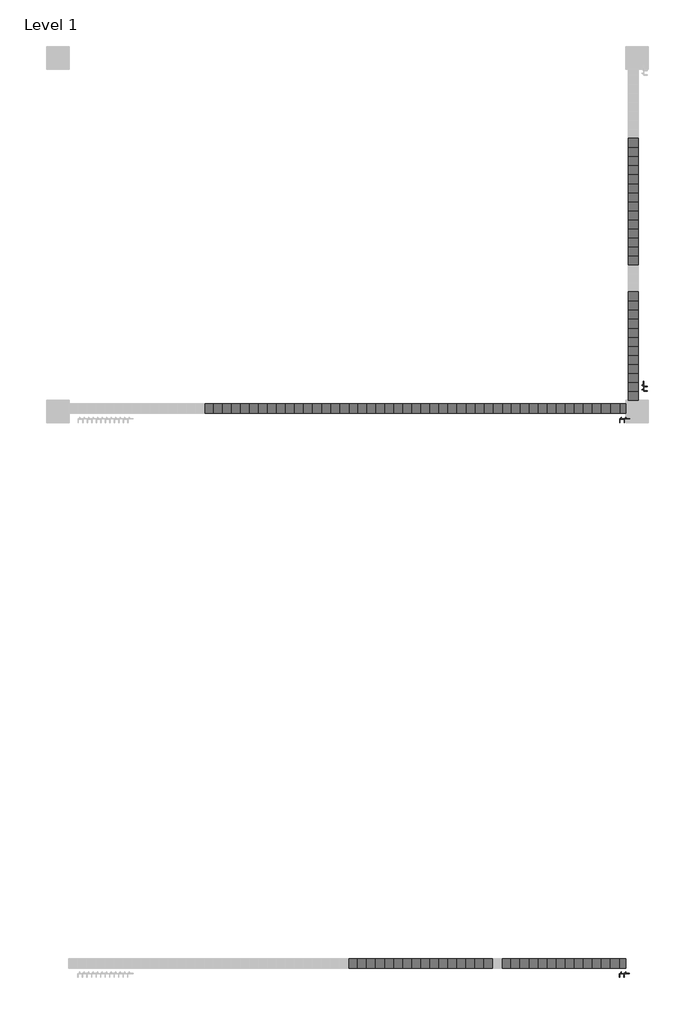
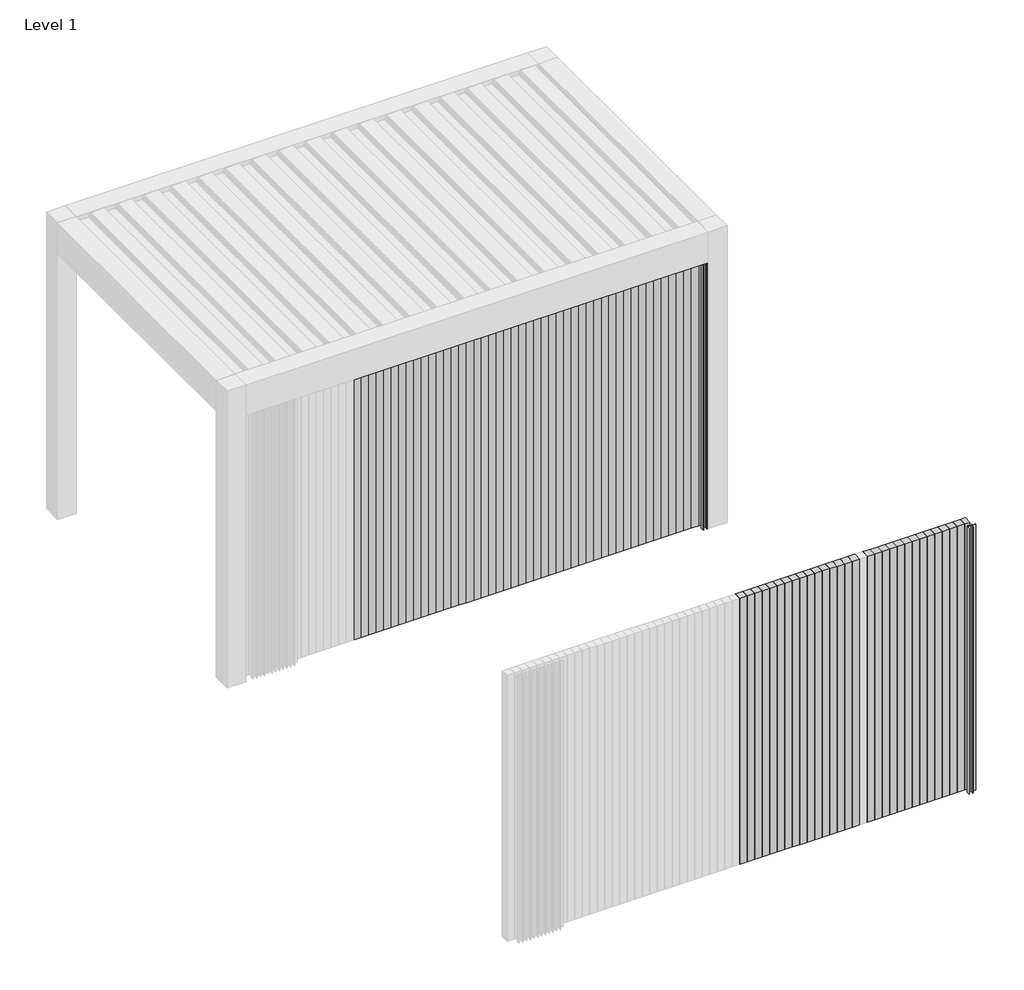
# One storey, part 2 of 69: 103 plates, 3 members.
"""IFC4 building model written with IfcOpenShell, lengths in millimetres."""

from ifc_helpers import new_model, si_unit, origin, origin_with_axes, place, context, project, spatial, polyline, outline, extrude, transform, mapped, element, save
from components import rectangular_mullion_a288ed38

model = new_model("IFC4")

# Units and contexts
model_context = context("Model", 3, world=origin())
ifc_project = project(units=[si_unit("LENGTHUNIT", "METRE", prefix="MILLI")], contexts=[model_context])

# Site, building, storey
site = spatial("IfcSite", under=ifc_project)
building = spatial("IfcBuilding", under=site)
storey = spatial("IfcBuildingStorey", under=building, Name="Level 1", Elevation=0.0)

# Members
placement = place(None, origin())
rectangular_mullion_shape = rectangular_mullion_a288ed38(model_context)
element("IfcMember", 1, ObjectType="Rectangular Mullion : Renson_Linarte_LA-E25-01", at=placement, inside=storey, context=model_context, shape_type="MappedRepresentation", body=[
    mapped(rectangular_mullion_shape, transform((210784.2591292, 4519.040906, 0.0), x_axis=(1.0, 0.0, 0.0), y_axis=(0.0, -1.0, 0.0), z_axis=(0.0, 0.0, -1.0))),
])
element("IfcMember", 2, ObjectType="Rectangular Mullion : Renson_Linarte_LA-E25-01", at=placement, inside=storey, context=model_context, shape_type="MappedRepresentation", body=[
    mapped(rectangular_mullion_shape, transform((210785.5749429, 8204.7218191, 0.0), x_axis=(1.0, 0.0, 0.0), y_axis=(0.0, -1.0, 0.0), z_axis=(0.0, 0.0, -1.0))),
])
element("IfcMember", 3, ObjectType="Rectangular Mullion : Renson_Linarte_LA-E25-01", at=placement, inside=storey, context=model_context, shape_type="MappedRepresentation", body=[
    mapped(rectangular_mullion_shape, transform((210877.0900207, 8319.7218195, 0.0), x_axis=(0.0, 1.0, 0.0), y_axis=(1.0, 0.0, 0.0), z_axis=(0.0, 0.0, -1.0))),
])

# Plates
element("IfcPlate", 4, ObjectType="Base - 64mm", at=placement, inside=storey, context=model_context, shape_type="SweptSolid", body=[
    extrude(outline(polyline([(210784.2591292, 4487.040906), (210724.2591292, 4487.040906), (210724.2591292, 4551.040906), (210784.2591292, 4551.040906), (210784.2591292, 4487.040906)])), origin_with_axes(), (0.0, 0.0, 1.0), 2250.0),
])
element("IfcPlate", 5, ObjectType="Base - 64mm", at=placement, inside=storey, context=model_context, shape_type="SweptSolid", body=[
    extrude(outline(polyline([(210724.2591292, 4487.040906), (210664.2591292, 4487.040906), (210664.2591292, 4551.040906), (210724.2591292, 4551.040906), (210724.2591292, 4487.040906)])), origin_with_axes(), (0.0, 0.0, 1.0), 2250.0),
])
element("IfcPlate", 6, ObjectType="Base - 64mm", at=placement, inside=storey, context=model_context, shape_type="SweptSolid", body=[
    extrude(outline(polyline([(210664.2591292, 4487.040906), (210604.2591292, 4487.040906), (210604.2591292, 4551.040906), (210664.2591292, 4551.040906), (210664.2591292, 4487.040906)])), origin_with_axes(), (0.0, 0.0, 1.0), 2250.0),
])
element("IfcPlate", 7, ObjectType="Base - 64mm", at=placement, inside=storey, context=model_context, shape_type="SweptSolid", body=[
    extrude(outline(polyline([(210604.2591292, 4487.040906), (210544.2591292, 4487.040906), (210544.2591292, 4551.040906), (210604.2591292, 4551.040906), (210604.2591292, 4487.040906)])), origin_with_axes(), (0.0, 0.0, 1.0), 2250.0),
])
element("IfcPlate", 8, ObjectType="Base - 64mm", at=placement, inside=storey, context=model_context, shape_type="SweptSolid", body=[
    extrude(outline(polyline([(210544.2591292, 4487.040906), (210484.2591292, 4487.040906), (210484.2591292, 4551.040906), (210544.2591292, 4551.040906), (210544.2591292, 4487.040906)])), origin_with_axes(), (0.0, 0.0, 1.0), 2250.0),
])
element("IfcPlate", 9, ObjectType="Base - 64mm", at=placement, inside=storey, context=model_context, shape_type="SweptSolid", body=[
    extrude(outline(polyline([(210484.2591292, 4487.040906), (210424.2591292, 4487.040906), (210424.2591292, 4551.040906), (210484.2591292, 4551.040906), (210484.2591292, 4487.040906)])), origin_with_axes(), (0.0, 0.0, 1.0), 2250.0),
])
element("IfcPlate", 10, ObjectType="Base - 64mm", at=placement, inside=storey, context=model_context, shape_type="SweptSolid", body=[
    extrude(outline(polyline([(210424.2591292, 4487.040906), (210364.2591292, 4487.040906), (210364.2591292, 4551.040906), (210424.2591292, 4551.040906), (210424.2591292, 4487.040906)])), origin_with_axes(), (0.0, 0.0, 1.0), 2250.0),
])
element("IfcPlate", 11, ObjectType="Base - 64mm", at=placement, inside=storey, context=model_context, shape_type="SweptSolid", body=[
    extrude(outline(polyline([(210364.2591292, 4487.040906), (210304.2591292, 4487.040906), (210304.2591292, 4551.040906), (210364.2591292, 4551.040906), (210364.2591292, 4487.040906)])), origin_with_axes(), (0.0, 0.0, 1.0), 2250.0),
])
element("IfcPlate", 12, ObjectType="Base - 64mm", at=placement, inside=storey, context=model_context, shape_type="SweptSolid", body=[
    extrude(outline(polyline([(210304.2591292, 4487.040906), (210244.2591292, 4487.040906), (210244.2591292, 4551.040906), (210304.2591292, 4551.040906), (210304.2591292, 4487.040906)])), origin_with_axes(), (0.0, 0.0, 1.0), 2250.0),
])
element("IfcPlate", 13, ObjectType="Base - 64mm", at=placement, inside=storey, context=model_context, shape_type="SweptSolid", body=[
    extrude(outline(polyline([(210244.2591292, 4487.040906), (210184.2591292, 4487.040906), (210184.2591292, 4551.040906), (210244.2591292, 4551.040906), (210244.2591292, 4487.040906)])), origin_with_axes(), (0.0, 0.0, 1.0), 2250.0),
])
element("IfcPlate", 14, ObjectType="Base - 64mm", at=placement, inside=storey, context=model_context, shape_type="SweptSolid", body=[
    extrude(outline(polyline([(210184.2591292, 4487.040906), (210124.2591292, 4487.040906), (210124.2591292, 4551.040906), (210184.2591292, 4551.040906), (210184.2591292, 4487.040906)])), origin_with_axes(), (0.0, 0.0, 1.0), 2250.0),
])
element("IfcPlate", 15, ObjectType="Base - 64mm", at=placement, inside=storey, context=model_context, shape_type="SweptSolid", body=[
    extrude(outline(polyline([(210124.2591292, 4487.040906), (210064.2591292, 4487.040906), (210064.2591292, 4551.040906), (210124.2591292, 4551.040906), (210124.2591292, 4487.040906)])), origin_with_axes(), (0.0, 0.0, 1.0), 2250.0),
])
element("IfcPlate", 16, ObjectType="Base - 64mm", at=placement, inside=storey, context=model_context, shape_type="SweptSolid", body=[
    extrude(outline(polyline([(210064.2591292, 4487.040906), (210004.2591292, 4487.040906), (210004.2591292, 4551.040906), (210064.2591292, 4551.040906), (210064.2591292, 4487.040906)])), origin_with_axes(), (0.0, 0.0, 1.0), 2250.0),
])
element("IfcPlate", 17, ObjectType="Base - 64mm", at=placement, inside=storey, context=model_context, shape_type="SweptSolid", body=[
    extrude(outline(polyline([(209944.2591292, 4487.040906), (209884.2591292, 4487.040906), (209884.2591292, 4551.040906), (209944.2591292, 4551.040906), (209944.2591292, 4487.040906)])), origin_with_axes(), (0.0, 0.0, 1.0), 2250.0),
])
element("IfcPlate", 18, ObjectType="Base - 64mm", at=placement, inside=storey, context=model_context, shape_type="SweptSolid", body=[
    extrude(outline(polyline([(209884.2591292, 4487.040906), (209824.2591292, 4487.040906), (209824.2591292, 4551.040906), (209884.2591292, 4551.040906), (209884.2591292, 4487.040906)])), origin_with_axes(), (0.0, 0.0, 1.0), 2250.0),
])
element("IfcPlate", 19, ObjectType="Base - 64mm", at=placement, inside=storey, context=model_context, shape_type="SweptSolid", body=[
    extrude(outline(polyline([(209824.2591292, 4487.040906), (209764.2591292, 4487.040906), (209764.2591292, 4551.040906), (209824.2591292, 4551.040906), (209824.2591292, 4487.040906)])), origin_with_axes(), (0.0, 0.0, 1.0), 2250.0),
])
element("IfcPlate", 20, ObjectType="Base - 64mm", at=placement, inside=storey, context=model_context, shape_type="SweptSolid", body=[
    extrude(outline(polyline([(209764.2591292, 4487.040906), (209704.2591292, 4487.040906), (209704.2591292, 4551.040906), (209764.2591292, 4551.040906), (209764.2591292, 4487.040906)])), origin_with_axes(), (0.0, 0.0, 1.0), 2250.0),
])
element("IfcPlate", 21, ObjectType="Base - 64mm", at=placement, inside=storey, context=model_context, shape_type="SweptSolid", body=[
    extrude(outline(polyline([(209704.2591292, 4487.040906), (209644.2591292, 4487.040906), (209644.2591292, 4551.040906), (209704.2591292, 4551.040906), (209704.2591292, 4487.040906)])), origin_with_axes(), (0.0, 0.0, 1.0), 2250.0),
])
element("IfcPlate", 22, ObjectType="Base - 64mm", at=placement, inside=storey, context=model_context, shape_type="SweptSolid", body=[
    extrude(outline(polyline([(209644.2591292, 4487.040906), (209584.2591292, 4487.040906), (209584.2591292, 4551.040906), (209644.2591292, 4551.040906), (209644.2591292, 4487.040906)])), origin_with_axes(), (0.0, 0.0, 1.0), 2250.0),
])
element("IfcPlate", 23, ObjectType="Base - 64mm", at=placement, inside=storey, context=model_context, shape_type="SweptSolid", body=[
    extrude(outline(polyline([(209584.2591292, 4487.040906), (209524.2591292, 4487.040906), (209524.2591292, 4551.040906), (209584.2591292, 4551.040906), (209584.2591292, 4487.040906)])), origin_with_axes(), (0.0, 0.0, 1.0), 2250.0),
])
element("IfcPlate", 24, ObjectType="Base - 64mm", at=placement, inside=storey, context=model_context, shape_type="SweptSolid", body=[
    extrude(outline(polyline([(209524.2591292, 4487.040906), (209464.2591292, 4487.040906), (209464.2591292, 4551.040906), (209524.2591292, 4551.040906), (209524.2591292, 4487.040906)])), origin_with_axes(), (0.0, 0.0, 1.0), 2250.0),
])
element("IfcPlate", 25, ObjectType="Base - 64mm", at=placement, inside=storey, context=model_context, shape_type="SweptSolid", body=[
    extrude(outline(polyline([(209464.2591292, 4487.040906), (209404.2591292, 4487.040906), (209404.2591292, 4551.040906), (209464.2591292, 4551.040906), (209464.2591292, 4487.040906)])), origin_with_axes(), (0.0, 0.0, 1.0), 2250.0),
])
element("IfcPlate", 26, ObjectType="Base - 64mm", at=placement, inside=storey, context=model_context, shape_type="SweptSolid", body=[
    extrude(outline(polyline([(209404.2591292, 4487.040906), (209344.2591292, 4487.040906), (209344.2591292, 4551.040906), (209404.2591292, 4551.040906), (209404.2591292, 4487.040906)])), origin_with_axes(), (0.0, 0.0, 1.0), 2250.0),
])
element("IfcPlate", 27, ObjectType="Base - 64mm", at=placement, inside=storey, context=model_context, shape_type="SweptSolid", body=[
    extrude(outline(polyline([(209344.2591292, 4487.040906), (209284.2591292, 4487.040906), (209284.2591292, 4551.040906), (209344.2591292, 4551.040906), (209344.2591292, 4487.040906)])), origin_with_axes(), (0.0, 0.0, 1.0), 2250.0),
])
element("IfcPlate", 28, ObjectType="Base - 64mm", at=placement, inside=storey, context=model_context, shape_type="SweptSolid", body=[
    extrude(outline(polyline([(209284.2591292, 4487.040906), (209224.2591292, 4487.040906), (209224.2591292, 4551.040906), (209284.2591292, 4551.040906), (209284.2591292, 4487.040906)])), origin_with_axes(), (0.0, 0.0, 1.0), 2250.0),
])
element("IfcPlate", 29, ObjectType="Base - 64mm", at=placement, inside=storey, context=model_context, shape_type="SweptSolid", body=[
    extrude(outline(polyline([(209224.2591292, 4487.040906), (209164.2591292, 4487.040906), (209164.2591292, 4551.040906), (209224.2591292, 4551.040906), (209224.2591292, 4487.040906)])), origin_with_axes(), (0.0, 0.0, 1.0), 2250.0),
])
element("IfcPlate", 30, ObjectType="Base - 64mm", at=placement, inside=storey, context=model_context, shape_type="SweptSolid", body=[
    extrude(outline(polyline([(209164.2591292, 4487.040906), (209104.2591292, 4487.040906), (209104.2591292, 4551.040906), (209164.2591292, 4551.040906), (209164.2591292, 4487.040906)])), origin_with_axes(), (0.0, 0.0, 1.0), 2250.0),
])
element("IfcPlate", 31, ObjectType="Base - 64mm", at=placement, inside=storey, context=model_context, shape_type="SweptSolid", body=[
    extrude(outline(polyline([(209104.2591292, 4487.040906), (209044.2591292, 4487.040906), (209044.2591292, 4551.040906), (209104.2591292, 4551.040906), (209104.2591292, 4487.040906)])), origin_with_axes(), (0.0, 0.0, 1.0), 2250.0),
])
element("IfcPlate", 32, ObjectType="Base - 64mm", at=placement, inside=storey, context=model_context, shape_type="SweptSolid", body=[
    extrude(outline(polyline([(209044.2591292, 4487.040906), (208984.2591292, 4487.040906), (208984.2591292, 4551.040906), (209044.2591292, 4551.040906), (209044.2591292, 4487.040906)])), origin_with_axes(), (0.0, 0.0, 1.0), 2250.0),
])
element("IfcPlate", 33, ObjectType="Base - 64mm", at=placement, inside=storey, context=model_context, shape_type="SweptSolid", body=[
    extrude(outline(polyline([(210825.5749426, 4487.040906), (210784.2591292, 4487.040906), (210784.2591292, 4551.040906), (210825.5749426, 4551.040906), (210825.5749426, 4487.040906)])), origin_with_axes(), (0.0, 0.0, 1.0), 2250.0),
])
element("IfcPlate", 34, ObjectType="Base - 64mm", at=placement, inside=storey, context=model_context, shape_type="SweptSolid", body=[
    extrude(outline(polyline([(210785.5749429, 8172.7218191), (210725.5749429, 8172.7218191), (210725.5749429, 8236.7218191), (210785.5749429, 8236.7218191), (210785.5749429, 8172.7218191)])), origin_with_axes(), (0.0, 0.0, 1.0), 2250.0),
])
element("IfcPlate", 35, ObjectType="Base - 64mm", at=placement, inside=storey, context=model_context, shape_type="SweptSolid", body=[
    extrude(outline(polyline([(210725.5749429, 8172.7218191), (210665.5749429, 8172.7218191), (210665.5749429, 8236.7218191), (210725.5749429, 8236.7218191), (210725.5749429, 8172.7218191)])), origin_with_axes(), (0.0, 0.0, 1.0), 2250.0),
])
element("IfcPlate", 36, ObjectType="Base - 64mm", at=placement, inside=storey, context=model_context, shape_type="SweptSolid", body=[
    extrude(outline(polyline([(210665.5749429, 8172.7218191), (210605.5749429, 8172.7218191), (210605.5749429, 8236.7218191), (210665.5749429, 8236.7218191), (210665.5749429, 8172.7218191)])), origin_with_axes(), (0.0, 0.0, 1.0), 2250.0),
])
element("IfcPlate", 37, ObjectType="Base - 64mm", at=placement, inside=storey, context=model_context, shape_type="SweptSolid", body=[
    extrude(outline(polyline([(210605.5749429, 8172.7218191), (210545.5749429, 8172.7218191), (210545.5749429, 8236.7218191), (210605.5749429, 8236.7218191), (210605.5749429, 8172.7218191)])), origin_with_axes(), (0.0, 0.0, 1.0), 2250.0),
])
element("IfcPlate", 38, ObjectType="Base - 64mm", at=placement, inside=storey, context=model_context, shape_type="SweptSolid", body=[
    extrude(outline(polyline([(210545.5749429, 8172.7218191), (210485.5749429, 8172.7218191), (210485.5749429, 8236.7218191), (210545.5749429, 8236.7218191), (210545.5749429, 8172.7218191)])), origin_with_axes(), (0.0, 0.0, 1.0), 2250.0),
])
element("IfcPlate", 39, ObjectType="Base - 64mm", at=placement, inside=storey, context=model_context, shape_type="SweptSolid", body=[
    extrude(outline(polyline([(210485.5749429, 8172.7218191), (210425.5749429, 8172.7218191), (210425.5749429, 8236.7218191), (210485.5749429, 8236.7218191), (210485.5749429, 8172.7218191)])), origin_with_axes(), (0.0, 0.0, 1.0), 2250.0),
])
element("IfcPlate", 40, ObjectType="Base - 64mm", at=placement, inside=storey, context=model_context, shape_type="SweptSolid", body=[
    extrude(outline(polyline([(210425.5749429, 8172.7218191), (210365.5749429, 8172.7218191), (210365.5749429, 8236.7218191), (210425.5749429, 8236.7218191), (210425.5749429, 8172.7218191)])), origin_with_axes(), (0.0, 0.0, 1.0), 2250.0),
])
element("IfcPlate", 41, ObjectType="Base - 64mm", at=placement, inside=storey, context=model_context, shape_type="SweptSolid", body=[
    extrude(outline(polyline([(210365.5749429, 8172.7218191), (210305.5749429, 8172.7218191), (210305.5749429, 8236.7218191), (210365.5749429, 8236.7218191), (210365.5749429, 8172.7218191)])), origin_with_axes(), (0.0, 0.0, 1.0), 2250.0),
])
element("IfcPlate", 42, ObjectType="Base - 64mm", at=placement, inside=storey, context=model_context, shape_type="SweptSolid", body=[
    extrude(outline(polyline([(210305.5749429, 8172.7218191), (210245.5749429, 8172.7218191), (210245.5749429, 8236.7218191), (210305.5749429, 8236.7218191), (210305.5749429, 8172.7218191)])), origin_with_axes(), (0.0, 0.0, 1.0), 2250.0),
])
element("IfcPlate", 43, ObjectType="Base - 64mm", at=placement, inside=storey, context=model_context, shape_type="SweptSolid", body=[
    extrude(outline(polyline([(210245.5749429, 8172.7218191), (210185.5749429, 8172.7218191), (210185.5749429, 8236.7218191), (210245.5749429, 8236.7218191), (210245.5749429, 8172.7218191)])), origin_with_axes(), (0.0, 0.0, 1.0), 2250.0),
])
element("IfcPlate", 44, ObjectType="Base - 64mm", at=placement, inside=storey, context=model_context, shape_type="SweptSolid", body=[
    extrude(outline(polyline([(210185.5749429, 8172.7218191), (210125.5749429, 8172.7218191), (210125.5749429, 8236.7218191), (210185.5749429, 8236.7218191), (210185.5749429, 8172.7218191)])), origin_with_axes(), (0.0, 0.0, 1.0), 2250.0),
])
element("IfcPlate", 45, ObjectType="Base - 64mm", at=placement, inside=storey, context=model_context, shape_type="SweptSolid", body=[
    extrude(outline(polyline([(210125.5749429, 8172.7218191), (210065.5749429, 8172.7218191), (210065.5749429, 8236.7218191), (210125.5749429, 8236.7218191), (210125.5749429, 8172.7218191)])), origin_with_axes(), (0.0, 0.0, 1.0), 2250.0),
])
element("IfcPlate", 46, ObjectType="Base - 64mm", at=placement, inside=storey, context=model_context, shape_type="SweptSolid", body=[
    extrude(outline(polyline([(210065.5749429, 8172.7218191), (210005.5749429, 8172.7218191), (210005.5749429, 8236.7218191), (210065.5749429, 8236.7218191), (210065.5749429, 8172.7218191)])), origin_with_axes(), (0.0, 0.0, 1.0), 2250.0),
])
element("IfcPlate", 47, ObjectType="Base - 64mm", at=placement, inside=storey, context=model_context, shape_type="SweptSolid", body=[
    extrude(outline(polyline([(210005.5749429, 8172.7218191), (209945.5749429, 8172.7218191), (209945.5749429, 8236.7218191), (210005.5749429, 8236.7218191), (210005.5749429, 8172.7218191)])), origin_with_axes(), (0.0, 0.0, 1.0), 2250.0),
])
element("IfcPlate", 48, ObjectType="Base - 64mm", at=placement, inside=storey, context=model_context, shape_type="SweptSolid", body=[
    extrude(outline(polyline([(209945.5749429, 8172.7218191), (209885.5749429, 8172.7218191), (209885.5749429, 8236.7218191), (209945.5749429, 8236.7218191), (209945.5749429, 8172.7218191)])), origin_with_axes(), (0.0, 0.0, 1.0), 2250.0),
])
element("IfcPlate", 49, ObjectType="Base - 64mm", at=placement, inside=storey, context=model_context, shape_type="SweptSolid", body=[
    extrude(outline(polyline([(209885.5749429, 8172.7218191), (209825.5749429, 8172.7218191), (209825.5749429, 8236.7218191), (209885.5749429, 8236.7218191), (209885.5749429, 8172.7218191)])), origin_with_axes(), (0.0, 0.0, 1.0), 2250.0),
])
element("IfcPlate", 50, ObjectType="Base - 64mm", at=placement, inside=storey, context=model_context, shape_type="SweptSolid", body=[
    extrude(outline(polyline([(209825.5749429, 8172.7218191), (209765.5749429, 8172.7218191), (209765.5749429, 8236.7218191), (209825.5749429, 8236.7218191), (209825.5749429, 8172.7218191)])), origin_with_axes(), (0.0, 0.0, 1.0), 2250.0),
])
element("IfcPlate", 51, ObjectType="Base - 64mm", at=placement, inside=storey, context=model_context, shape_type="SweptSolid", body=[
    extrude(outline(polyline([(209765.5749429, 8172.7218191), (209705.5749429, 8172.7218191), (209705.5749429, 8236.7218191), (209765.5749429, 8236.7218191), (209765.5749429, 8172.7218191)])), origin_with_axes(), (0.0, 0.0, 1.0), 2250.0),
])
element("IfcPlate", 52, ObjectType="Base - 64mm", at=placement, inside=storey, context=model_context, shape_type="SweptSolid", body=[
    extrude(outline(polyline([(209705.5749429, 8172.7218191), (209645.5749429, 8172.7218191), (209645.5749429, 8236.7218191), (209705.5749429, 8236.7218191), (209705.5749429, 8172.7218191)])), origin_with_axes(), (0.0, 0.0, 1.0), 2250.0),
])
element("IfcPlate", 53, ObjectType="Base - 64mm", at=placement, inside=storey, context=model_context, shape_type="SweptSolid", body=[
    extrude(outline(polyline([(209645.5749429, 8172.7218191), (209585.5749429, 8172.7218191), (209585.5749429, 8236.7218191), (209645.5749429, 8236.7218191), (209645.5749429, 8172.7218191)])), origin_with_axes(), (0.0, 0.0, 1.0), 2250.0),
])
element("IfcPlate", 54, ObjectType="Base - 64mm", at=placement, inside=storey, context=model_context, shape_type="SweptSolid", body=[
    extrude(outline(polyline([(209585.5749429, 8172.7218191), (209525.5749429, 8172.7218191), (209525.5749429, 8236.7218191), (209585.5749429, 8236.7218191), (209585.5749429, 8172.7218191)])), origin_with_axes(), (0.0, 0.0, 1.0), 2250.0),
])
element("IfcPlate", 55, ObjectType="Base - 64mm", at=placement, inside=storey, context=model_context, shape_type="SweptSolid", body=[
    extrude(outline(polyline([(209525.5749429, 8172.7218191), (209465.5749429, 8172.7218191), (209465.5749429, 8236.7218191), (209525.5749429, 8236.7218191), (209525.5749429, 8172.7218191)])), origin_with_axes(), (0.0, 0.0, 1.0), 2250.0),
])
element("IfcPlate", 56, ObjectType="Base - 64mm", at=placement, inside=storey, context=model_context, shape_type="SweptSolid", body=[
    extrude(outline(polyline([(209465.5749429, 8172.7218191), (209405.5749429, 8172.7218191), (209405.5749429, 8236.7218191), (209465.5749429, 8236.7218191), (209465.5749429, 8172.7218191)])), origin_with_axes(), (0.0, 0.0, 1.0), 2250.0),
])
element("IfcPlate", 57, ObjectType="Base - 64mm", at=placement, inside=storey, context=model_context, shape_type="SweptSolid", body=[
    extrude(outline(polyline([(209405.5749429, 8172.7218191), (209345.5749429, 8172.7218191), (209345.5749429, 8236.7218191), (209405.5749429, 8236.7218191), (209405.5749429, 8172.7218191)])), origin_with_axes(), (0.0, 0.0, 1.0), 2250.0),
])
element("IfcPlate", 58, ObjectType="Base - 64mm", at=placement, inside=storey, context=model_context, shape_type="SweptSolid", body=[
    extrude(outline(polyline([(209345.5749429, 8172.7218191), (209285.5749429, 8172.7218191), (209285.5749429, 8236.7218191), (209345.5749429, 8236.7218191), (209345.5749429, 8172.7218191)])), origin_with_axes(), (0.0, 0.0, 1.0), 2250.0),
])
element("IfcPlate", 59, ObjectType="Base - 64mm", at=placement, inside=storey, context=model_context, shape_type="SweptSolid", body=[
    extrude(outline(polyline([(209285.5749429, 8172.7218191), (209225.5749429, 8172.7218191), (209225.5749429, 8236.7218191), (209285.5749429, 8236.7218191), (209285.5749429, 8172.7218191)])), origin_with_axes(), (0.0, 0.0, 1.0), 2250.0),
])
element("IfcPlate", 60, ObjectType="Base - 64mm", at=placement, inside=storey, context=model_context, shape_type="SweptSolid", body=[
    extrude(outline(polyline([(209225.5749429, 8172.7218191), (209165.5749429, 8172.7218191), (209165.5749429, 8236.7218191), (209225.5749429, 8236.7218191), (209225.5749429, 8172.7218191)])), origin_with_axes(), (0.0, 0.0, 1.0), 2250.0),
])
element("IfcPlate", 61, ObjectType="Base - 64mm", at=placement, inside=storey, context=model_context, shape_type="SweptSolid", body=[
    extrude(outline(polyline([(209165.5749429, 8172.7218191), (209105.5749429, 8172.7218191), (209105.5749429, 8236.7218191), (209165.5749429, 8236.7218191), (209165.5749429, 8172.7218191)])), origin_with_axes(), (0.0, 0.0, 1.0), 2250.0),
])
element("IfcPlate", 62, ObjectType="Base - 64mm", at=placement, inside=storey, context=model_context, shape_type="SweptSolid", body=[
    extrude(outline(polyline([(209105.5749429, 8172.7218191), (209045.5749429, 8172.7218191), (209045.5749429, 8236.7218191), (209105.5749429, 8236.7218191), (209105.5749429, 8172.7218191)])), origin_with_axes(), (0.0, 0.0, 1.0), 2250.0),
])
element("IfcPlate", 63, ObjectType="Base - 64mm", at=placement, inside=storey, context=model_context, shape_type="SweptSolid", body=[
    extrude(outline(polyline([(209045.5749429, 8172.7218191), (208985.5749429, 8172.7218191), (208985.5749429, 8236.7218191), (209045.5749429, 8236.7218191), (209045.5749429, 8172.7218191)])), origin_with_axes(), (0.0, 0.0, 1.0), 2250.0),
])
element("IfcPlate", 64, ObjectType="Base - 64mm", at=placement, inside=storey, context=model_context, shape_type="SweptSolid", body=[
    extrude(outline(polyline([(208985.5749429, 8172.7218191), (208925.5749429, 8172.7218191), (208925.5749429, 8236.7218191), (208985.5749429, 8236.7218191), (208985.5749429, 8172.7218191)])), origin_with_axes(), (0.0, 0.0, 1.0), 2250.0),
])
element("IfcPlate", 65, ObjectType="Base - 64mm", at=placement, inside=storey, context=model_context, shape_type="SweptSolid", body=[
    extrude(outline(polyline([(208925.5749429, 8172.7218191), (208865.5749429, 8172.7218191), (208865.5749429, 8236.7218191), (208925.5749429, 8236.7218191), (208925.5749429, 8172.7218191)])), origin_with_axes(), (0.0, 0.0, 1.0), 2250.0),
])
element("IfcPlate", 66, ObjectType="Base - 64mm", at=placement, inside=storey, context=model_context, shape_type="SweptSolid", body=[
    extrude(outline(polyline([(208865.5749429, 8172.7218191), (208805.5749429, 8172.7218191), (208805.5749429, 8236.7218191), (208865.5749429, 8236.7218191), (208865.5749429, 8172.7218191)])), origin_with_axes(), (0.0, 0.0, 1.0), 2250.0),
])
element("IfcPlate", 67, ObjectType="Base - 64mm", at=placement, inside=storey, context=model_context, shape_type="SweptSolid", body=[
    extrude(outline(polyline([(208805.5749429, 8172.7218191), (208745.5749429, 8172.7218191), (208745.5749429, 8236.7218191), (208805.5749429, 8236.7218191), (208805.5749429, 8172.7218191)])), origin_with_axes(), (0.0, 0.0, 1.0), 2250.0),
])
element("IfcPlate", 68, ObjectType="Base - 64mm", at=placement, inside=storey, context=model_context, shape_type="SweptSolid", body=[
    extrude(outline(polyline([(208745.5749429, 8172.7218191), (208685.5749429, 8172.7218191), (208685.5749429, 8236.7218191), (208745.5749429, 8236.7218191), (208745.5749429, 8172.7218191)])), origin_with_axes(), (0.0, 0.0, 1.0), 2250.0),
])
element("IfcPlate", 69, ObjectType="Base - 64mm", at=placement, inside=storey, context=model_context, shape_type="SweptSolid", body=[
    extrude(outline(polyline([(208685.5749429, 8172.7218191), (208625.5749429, 8172.7218191), (208625.5749429, 8236.7218191), (208685.5749429, 8236.7218191), (208685.5749429, 8172.7218191)])), origin_with_axes(), (0.0, 0.0, 1.0), 2250.0),
])
element("IfcPlate", 70, ObjectType="Base - 64mm", at=placement, inside=storey, context=model_context, shape_type="SweptSolid", body=[
    extrude(outline(polyline([(208625.5749429, 8172.7218191), (208565.5749429, 8172.7218191), (208565.5749429, 8236.7218191), (208625.5749429, 8236.7218191), (208625.5749429, 8172.7218191)])), origin_with_axes(), (0.0, 0.0, 1.0), 2250.0),
])
element("IfcPlate", 71, ObjectType="Base - 64mm", at=placement, inside=storey, context=model_context, shape_type="SweptSolid", body=[
    extrude(outline(polyline([(208565.5749429, 8172.7218191), (208505.5749429, 8172.7218191), (208505.5749429, 8236.7218191), (208565.5749429, 8236.7218191), (208565.5749429, 8172.7218191)])), origin_with_axes(), (0.0, 0.0, 1.0), 2250.0),
])
element("IfcPlate", 72, ObjectType="Base - 64mm", at=placement, inside=storey, context=model_context, shape_type="SweptSolid", body=[
    extrude(outline(polyline([(208505.5749429, 8172.7218191), (208445.5749429, 8172.7218191), (208445.5749429, 8236.7218191), (208505.5749429, 8236.7218191), (208505.5749429, 8172.7218191)])), origin_with_axes(), (0.0, 0.0, 1.0), 2250.0),
])
element("IfcPlate", 73, ObjectType="Base - 64mm", at=placement, inside=storey, context=model_context, shape_type="SweptSolid", body=[
    extrude(outline(polyline([(208445.5749429, 8172.7218191), (208385.5749429, 8172.7218191), (208385.5749429, 8236.7218191), (208445.5749429, 8236.7218191), (208445.5749429, 8172.7218191)])), origin_with_axes(), (0.0, 0.0, 1.0), 2250.0),
])
element("IfcPlate", 74, ObjectType="Base - 64mm", at=placement, inside=storey, context=model_context, shape_type="SweptSolid", body=[
    extrude(outline(polyline([(208385.5749429, 8172.7218191), (208325.5749429, 8172.7218191), (208325.5749429, 8236.7218191), (208385.5749429, 8236.7218191), (208385.5749429, 8172.7218191)])), origin_with_axes(), (0.0, 0.0, 1.0), 2250.0),
])
element("IfcPlate", 75, ObjectType="Base - 64mm", at=placement, inside=storey, context=model_context, shape_type="SweptSolid", body=[
    extrude(outline(polyline([(208325.5749429, 8172.7218191), (208265.5749429, 8172.7218191), (208265.5749429, 8236.7218191), (208325.5749429, 8236.7218191), (208325.5749429, 8172.7218191)])), origin_with_axes(), (0.0, 0.0, 1.0), 2250.0),
])
element("IfcPlate", 76, ObjectType="Base - 64mm", at=placement, inside=storey, context=model_context, shape_type="SweptSolid", body=[
    extrude(outline(polyline([(208265.5749429, 8172.7218191), (208205.5749429, 8172.7218191), (208205.5749429, 8236.7218191), (208265.5749429, 8236.7218191), (208265.5749429, 8172.7218191)])), origin_with_axes(), (0.0, 0.0, 1.0), 2250.0),
])
element("IfcPlate", 77, ObjectType="Base - 64mm", at=placement, inside=storey, context=model_context, shape_type="SweptSolid", body=[
    extrude(outline(polyline([(208205.5749429, 8172.7218191), (208145.5749429, 8172.7218191), (208145.5749429, 8236.7218191), (208205.5749429, 8236.7218191), (208205.5749429, 8172.7218191)])), origin_with_axes(), (0.0, 0.0, 1.0), 2250.0),
])
element("IfcPlate", 78, ObjectType="Base - 64mm", at=placement, inside=storey, context=model_context, shape_type="SweptSolid", body=[
    extrude(outline(polyline([(208145.5749429, 8172.7218191), (208085.5749429, 8172.7218191), (208085.5749429, 8236.7218191), (208145.5749429, 8236.7218191), (208145.5749429, 8172.7218191)])), origin_with_axes(), (0.0, 0.0, 1.0), 2250.0),
])
element("IfcPlate", 79, ObjectType="Base - 64mm", at=placement, inside=storey, context=model_context, shape_type="SweptSolid", body=[
    extrude(outline(polyline([(208085.5749429, 8172.7218191), (208025.5749429, 8172.7218191), (208025.5749429, 8236.7218191), (208085.5749429, 8236.7218191), (208085.5749429, 8172.7218191)])), origin_with_axes(), (0.0, 0.0, 1.0), 2250.0),
])
element("IfcPlate", 80, ObjectType="Base - 64mm", at=placement, inside=storey, context=model_context, shape_type="SweptSolid", body=[
    extrude(outline(polyline([(210825.5749426, 8172.7218191), (210785.5749429, 8172.7218191), (210785.5749429, 8236.7218191), (210825.5749426, 8236.7218191), (210825.5749426, 8172.7218191)])), origin_with_axes(), (0.0, 0.0, 1.0), 2250.0),
])
element("IfcPlate", 81, ObjectType="Base - 64mm", at=placement, inside=storey, context=model_context, shape_type="SweptSolid", body=[
    extrude(outline(polyline([(210909.0900207, 9999.7218195), (210909.0900207, 9939.7218195), (210845.0900207, 9939.7218195), (210845.0900207, 9999.7218195), (210909.0900207, 9999.7218195)])), origin_with_axes(), (0.0, 0.0, 1.0), 2250.0),
])
element("IfcPlate", 82, ObjectType="Base - 64mm", at=placement, inside=storey, context=model_context, shape_type="SweptSolid", body=[
    extrude(outline(polyline([(210909.0900207, 9939.7218195), (210909.0900207, 9879.7218195), (210845.0900207, 9879.7218195), (210845.0900207, 9939.7218195), (210909.0900207, 9939.7218195)])), origin_with_axes(), (0.0, 0.0, 1.0), 2250.0),
])
element("IfcPlate", 83, ObjectType="Base - 64mm", at=placement, inside=storey, context=model_context, shape_type="SweptSolid", body=[
    extrude(outline(polyline([(210909.0900207, 9879.7218195), (210909.0900207, 9819.7218195), (210845.0900207, 9819.7218195), (210845.0900207, 9879.7218195), (210909.0900207, 9879.7218195)])), origin_with_axes(), (0.0, 0.0, 1.0), 2250.0),
])
element("IfcPlate", 84, ObjectType="Base - 64mm", at=placement, inside=storey, context=model_context, shape_type="SweptSolid", body=[
    extrude(outline(polyline([(210909.0900207, 9819.7218195), (210909.0900207, 9759.7218195), (210845.0900207, 9759.7218195), (210845.0900207, 9819.7218195), (210909.0900207, 9819.7218195)])), origin_with_axes(), (0.0, 0.0, 1.0), 2250.0),
])
element("IfcPlate", 85, ObjectType="Base - 64mm", at=placement, inside=storey, context=model_context, shape_type="SweptSolid", body=[
    extrude(outline(polyline([(210909.0900207, 9759.7218195), (210909.0900207, 9699.7218195), (210845.0900207, 9699.7218195), (210845.0900207, 9759.7218195), (210909.0900207, 9759.7218195)])), origin_with_axes(), (0.0, 0.0, 1.0), 2250.0),
])
element("IfcPlate", 86, ObjectType="Base - 64mm", at=placement, inside=storey, context=model_context, shape_type="SweptSolid", body=[
    extrude(outline(polyline([(210909.0900207, 9699.7218195), (210909.0900207, 9639.7218195), (210845.0900207, 9639.7218195), (210845.0900207, 9699.7218195), (210909.0900207, 9699.7218195)])), origin_with_axes(), (0.0, 0.0, 1.0), 2250.0),
])
element("IfcPlate", 87, ObjectType="Base - 64mm", at=placement, inside=storey, context=model_context, shape_type="SweptSolid", body=[
    extrude(outline(polyline([(210909.0900207, 9639.7218195), (210909.0900207, 9579.7218195), (210845.0900207, 9579.7218195), (210845.0900207, 9639.7218195), (210909.0900207, 9639.7218195)])), origin_with_axes(), (0.0, 0.0, 1.0), 2250.0),
])
element("IfcPlate", 88, ObjectType="Base - 64mm", at=placement, inside=storey, context=model_context, shape_type="SweptSolid", body=[
    extrude(outline(polyline([(210909.0900207, 9579.7218195), (210909.0900207, 9519.7218195), (210845.0900207, 9519.7218195), (210845.0900207, 9579.7218195), (210909.0900207, 9579.7218195)])), origin_with_axes(), (0.0, 0.0, 1.0), 2250.0),
])
element("IfcPlate", 89, ObjectType="Base - 64mm", at=placement, inside=storey, context=model_context, shape_type="SweptSolid", body=[
    extrude(outline(polyline([(210909.0900207, 9519.7218195), (210909.0900207, 9459.7218195), (210845.0900207, 9459.7218195), (210845.0900207, 9519.7218195), (210909.0900207, 9519.7218195)])), origin_with_axes(), (0.0, 0.0, 1.0), 2250.0),
])
element("IfcPlate", 90, ObjectType="Base - 64mm", at=placement, inside=storey, context=model_context, shape_type="SweptSolid", body=[
    extrude(outline(polyline([(210909.0900207, 9459.7218195), (210909.0900207, 9399.7218195), (210845.0900207, 9399.7218195), (210845.0900207, 9459.7218195), (210909.0900207, 9459.7218195)])), origin_with_axes(), (0.0, 0.0, 1.0), 2250.0),
])
element("IfcPlate", 91, ObjectType="Base - 64mm", at=placement, inside=storey, context=model_context, shape_type="SweptSolid", body=[
    extrude(outline(polyline([(210909.0900207, 9399.7218195), (210909.0900207, 9339.7218195), (210845.0900207, 9339.7218195), (210845.0900207, 9399.7218195), (210909.0900207, 9399.7218195)])), origin_with_axes(), (0.0, 0.0, 1.0), 2250.0),
])
element("IfcPlate", 92, ObjectType="Base - 64mm", at=placement, inside=storey, context=model_context, shape_type="SweptSolid", body=[
    extrude(outline(polyline([(210909.0900207, 9339.7218195), (210909.0900207, 9279.7218195), (210845.0900207, 9279.7218195), (210845.0900207, 9339.7218195), (210909.0900207, 9339.7218195)])), origin_with_axes(), (0.0, 0.0, 1.0), 2250.0),
])
element("IfcPlate", 93, ObjectType="Base - 64mm", at=placement, inside=storey, context=model_context, shape_type="SweptSolid", body=[
    extrude(outline(polyline([(210909.0900207, 9279.7218195), (210909.0900207, 9219.7218195), (210845.0900207, 9219.7218195), (210845.0900207, 9279.7218195), (210909.0900207, 9279.7218195)])), origin_with_axes(), (0.0, 0.0, 1.0), 2250.0),
])
element("IfcPlate", 94, ObjectType="Base - 64mm", at=placement, inside=storey, context=model_context, shape_type="SweptSolid", body=[
    extrude(outline(polyline([(210909.0900207, 9219.7218195), (210909.0900207, 9159.7218195), (210845.0900207, 9159.7218195), (210845.0900207, 9219.7218195), (210909.0900207, 9219.7218195)])), origin_with_axes(), (0.0, 0.0, 1.0), 2250.0),
])
element("IfcPlate", 95, ObjectType="Base - 64mm", at=placement, inside=storey, context=model_context, shape_type="SweptSolid", body=[
    extrude(outline(polyline([(210909.0900207, 8979.7218195), (210909.0900207, 8919.7218195), (210845.0900207, 8919.7218195), (210845.0900207, 8979.7218195), (210909.0900207, 8979.7218195)])), origin_with_axes(), (0.0, 0.0, 1.0), 2250.0),
])
element("IfcPlate", 96, ObjectType="Base - 64mm", at=placement, inside=storey, context=model_context, shape_type="SweptSolid", body=[
    extrude(outline(polyline([(210909.0900207, 8919.7218195), (210909.0900207, 8859.7218195), (210845.0900207, 8859.7218195), (210845.0900207, 8919.7218195), (210909.0900207, 8919.7218195)])), origin_with_axes(), (0.0, 0.0, 1.0), 2250.0),
])
element("IfcPlate", 97, ObjectType="Base - 64mm", at=placement, inside=storey, context=model_context, shape_type="SweptSolid", body=[
    extrude(outline(polyline([(210909.0900207, 8859.7218195), (210909.0900207, 8799.7218195), (210845.0900207, 8799.7218195), (210845.0900207, 8859.7218195), (210909.0900207, 8859.7218195)])), origin_with_axes(), (0.0, 0.0, 1.0), 2250.0),
])
element("IfcPlate", 98, ObjectType="Base - 64mm", at=placement, inside=storey, context=model_context, shape_type="SweptSolid", body=[
    extrude(outline(polyline([(210909.0900207, 8799.7218195), (210909.0900207, 8739.7218195), (210845.0900207, 8739.7218195), (210845.0900207, 8799.7218195), (210909.0900207, 8799.7218195)])), origin_with_axes(), (0.0, 0.0, 1.0), 2250.0),
])
element("IfcPlate", 99, ObjectType="Base - 64mm", at=placement, inside=storey, context=model_context, shape_type="SweptSolid", body=[
    extrude(outline(polyline([(210909.0900207, 8739.7218195), (210909.0900207, 8679.7218195), (210845.0900207, 8679.7218195), (210845.0900207, 8739.7218195), (210909.0900207, 8739.7218195)])), origin_with_axes(), (0.0, 0.0, 1.0), 2250.0),
])
element("IfcPlate", 100, ObjectType="Base - 64mm", at=placement, inside=storey, context=model_context, shape_type="SweptSolid", body=[
    extrude(outline(polyline([(210909.0900207, 8679.7218195), (210909.0900207, 8619.7218195), (210845.0900207, 8619.7218195), (210845.0900207, 8679.7218195), (210909.0900207, 8679.7218195)])), origin_with_axes(), (0.0, 0.0, 1.0), 2250.0),
])
element("IfcPlate", 101, ObjectType="Base - 64mm", at=placement, inside=storey, context=model_context, shape_type="SweptSolid", body=[
    extrude(outline(polyline([(210909.0900207, 8619.7218195), (210909.0900207, 8559.7218195), (210845.0900207, 8559.7218195), (210845.0900207, 8619.7218195), (210909.0900207, 8619.7218195)])), origin_with_axes(), (0.0, 0.0, 1.0), 2250.0),
])
element("IfcPlate", 102, ObjectType="Base - 64mm", at=placement, inside=storey, context=model_context, shape_type="SweptSolid", body=[
    extrude(outline(polyline([(210909.0900207, 8559.7218195), (210909.0900207, 8499.7218195), (210845.0900207, 8499.7218195), (210845.0900207, 8559.7218195), (210909.0900207, 8559.7218195)])), origin_with_axes(), (0.0, 0.0, 1.0), 2250.0),
])
element("IfcPlate", 103, ObjectType="Base - 64mm", at=placement, inside=storey, context=model_context, shape_type="SweptSolid", body=[
    extrude(outline(polyline([(210909.0900207, 8499.7218195), (210909.0900207, 8439.7218195), (210845.0900207, 8439.7218195), (210845.0900207, 8499.7218195), (210909.0900207, 8499.7218195)])), origin_with_axes(), (0.0, 0.0, 1.0), 2250.0),
])
element("IfcPlate", 104, ObjectType="Base - 64mm", at=placement, inside=storey, context=model_context, shape_type="SweptSolid", body=[
    extrude(outline(polyline([(210909.0900207, 8439.7218195), (210909.0900207, 8379.7218195), (210845.0900207, 8379.7218195), (210845.0900207, 8439.7218195), (210909.0900207, 8439.7218195)])), origin_with_axes(), (0.0, 0.0, 1.0), 2250.0),
])
element("IfcPlate", 105, ObjectType="Base - 64mm", at=placement, inside=storey, context=model_context, shape_type="SweptSolid", body=[
    extrude(outline(polyline([(210909.0900207, 8379.7218195), (210909.0900207, 8319.7218195), (210845.0900207, 8319.7218195), (210845.0900207, 8379.7218195), (210909.0900207, 8379.7218195)])), origin_with_axes(), (0.0, 0.0, 1.0), 2250.0),
])
element("IfcPlate", 106, ObjectType="Base - 64mm", at=placement, inside=storey, context=model_context, shape_type="SweptSolid", body=[
    extrude(outline(polyline([(210909.0900207, 8319.7218195), (210909.0900207, 8259.7218191), (210845.0900207, 8259.7218191), (210845.0900207, 8319.7218195), (210909.0900207, 8319.7218195)])), origin_with_axes(), (0.0, 0.0, 1.0), 2250.0),
])

save(model, "model.ifc")
